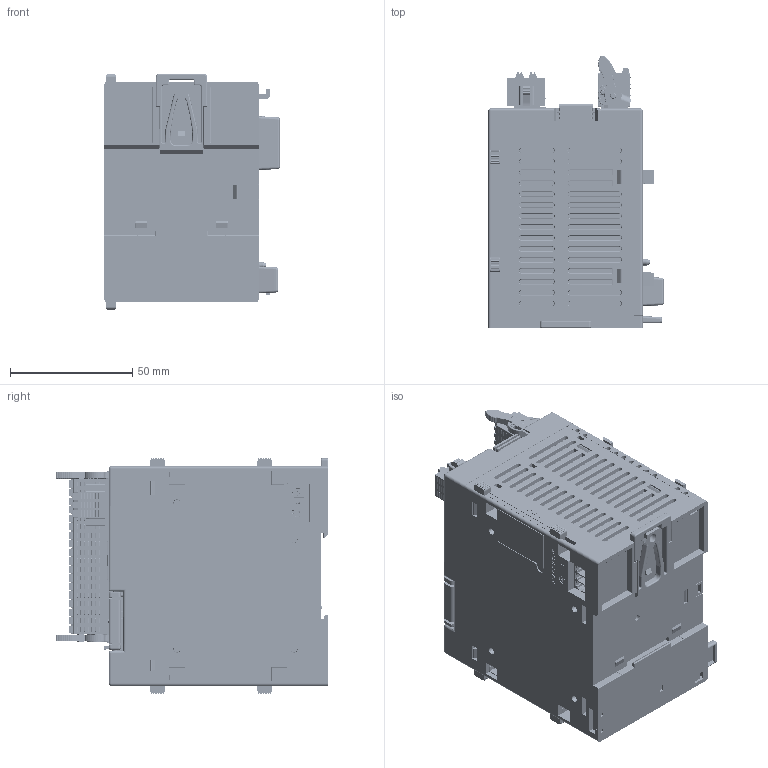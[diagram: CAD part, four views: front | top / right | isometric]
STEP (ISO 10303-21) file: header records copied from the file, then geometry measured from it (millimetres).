
FILE_DESCRIPTION((''),'2;1');
FILE_NAME('XCPU-MAIN-BODY-DOWN-COVER','2024-01-07T22:31:04',('Jacky Chang'),(''),'CREO PARAMETRIC BY PTC INC, 2021284','CREO PARAMETRIC BY PTC INC, 2021284','');
FILE_SCHEMA(('CONFIG_CONTROL_DESIGN','SHAPE_APPEARANCE_LAYERS_GROUPS'));
Products named in the file (1): XCPU-MAIN-BODY-DOWN-COVER
Bounding box: 71.9 x 111.6 x 96.6 mm (x, y, z)
Volume: 501032.3 mm3; surface area: 81683.3 mm2
Topology: 1 solids, 54 shells, 10709 faces, 29797 edges, 19583 vertices
Faces by surface type: plane 6101, cylinder 2927, bspline 641, torus 407, cone 385, extrusion 183, sphere 65
Entity records: 499012 total; most frequent: CARTESIAN_POINT 100582, ORIENTED_EDGE 59506, DIRECTION 51870, PRESENTATION_STYLE_ASSIGNMENT 32933, STYLED_ITEM 29756, CURVE_STYLE 29755, EDGE_CURVE 29753, VECTOR 19712
